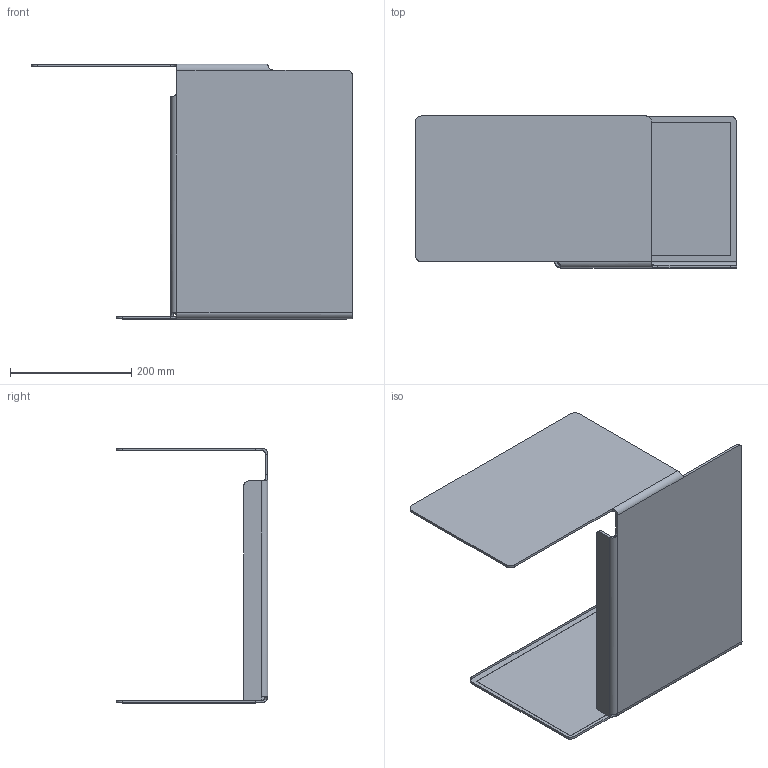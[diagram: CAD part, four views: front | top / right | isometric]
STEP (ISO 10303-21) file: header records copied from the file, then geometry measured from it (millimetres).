
FILE_DESCRIPTION(/* description */ (''),/* implementation_level */ '2;1');
FILE_NAME(/* name */ 'KG_Diana_A_3D_JS_20230718',/* time_stamp */ '2023-07-18T10:56:23+02:00',/* author */ (''),/* organization */ (''),/* preprocessor_version */ 'ST-DEVELOPER v16.5',/* originating_system */ 'Rhino 7.31',/* authorisation */ '');
FILE_SCHEMA (('CONFIG_CONTROL_DESIGN'));
Length unit declared in the file: millimetre
Products named in the file (1): Document
Bounding box: 530 x 250 x 422.01 mm (x, y, z)
Volume: 162800 mm3; surface area: 825537.8 mm2
Topology: 2 solids, 7 shells, 60 faces, 160 edges, 94 vertices
Faces by surface type: plane 27, bspline 19, cylinder 14
Entity records: 4271 total; most frequent: CARTESIAN_POINT 3140, ORIENTED_EDGE 297, EDGE_CURVE 163, B_SPLINE_CURVE_WITH_KNOTS 146, VERTEX_POINT 96, ADVANCED_FACE 60, FACE_OUTER_BOUND 60, EDGE_LOOP 60
